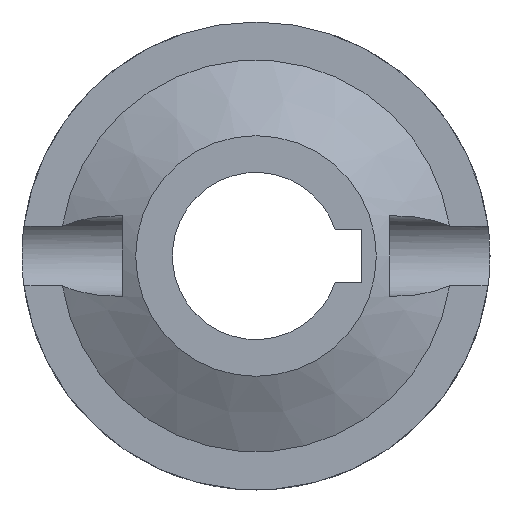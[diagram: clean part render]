
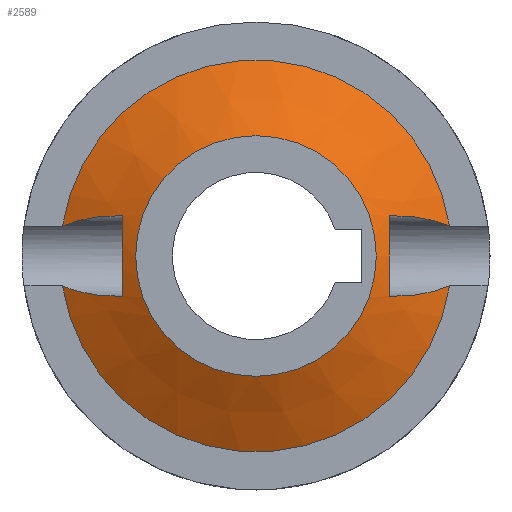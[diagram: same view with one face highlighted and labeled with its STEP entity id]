
A CAD part, front view. The second image highlights one B-rep face of the part: STEP entity #2589.
In plain terms, the highlighted conical face has half-angle 62.033 degrees and reference radius 18 mm.
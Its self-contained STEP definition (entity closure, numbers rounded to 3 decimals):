
#26=CONICAL_SURFACE('',#2881,18.,1.083);
#258=LINE('',#6282,#412);
#412=VECTOR('',#3568,18.);
#550=CIRCLE('',#2856,711.177);
#551=CIRCLE('',#2858,21.758);
#552=CIRCLE('',#2860,716.001);
#558=CIRCLE('',#2873,21.758);
#559=CIRCLE('',#2875,711.174);
#560=CIRCLE('',#2877,716.004);
#561=CIRCLE('',#2882,29.3);
#562=CIRCLE('',#2883,29.3);
#563=CIRCLE('',#2884,18.);
#762=FACE_OUTER_BOUND('',#920,.T.);
#920=EDGE_LOOP('',(#2173,#2174,#2175,#2176,#2177,#2178,#2179,#2180,#2181,
#2182,#2183,#2184,#2185,#2186,#2187,#2188,#2189,#2190));
#980=B_SPLINE_CURVE_WITH_KNOTS('',3,(#6138,#6139,#6140,#6141,#6142,#6143),
 .UNSPECIFIED.,.F.,.F.,(4,2,4),(-3.033,-2.793,-2.164),
 .UNSPECIFIED.);
#982=B_SPLINE_CURVE_WITH_KNOTS('',3,(#6163,#6164,#6165,#6166,#6167,#6168),
 .UNSPECIFIED.,.F.,.F.,(4,2,4),(-5.192,-4.563,-4.323),
 .UNSPECIFIED.);
#984=B_SPLINE_CURVE_WITH_KNOTS('',3,(#6228,#6229,#6230,#6231,#6232,#6233),
 .UNSPECIFIED.,.F.,.F.,(4,2,4),(-5.192,-4.563,-4.323),
 .UNSPECIFIED.);
#985=B_SPLINE_CURVE_WITH_KNOTS('',3,(#6234,#6235,#6236,#6237,#6238,#6239),
 .UNSPECIFIED.,.F.,.F.,(4,2,4),(-3.033,-2.793,-2.164),
 .UNSPECIFIED.);
#997=(
BOUNDED_CURVE()
B_SPLINE_CURVE(2,(#6110,#6111,#6112),.UNSPECIFIED.,.F.,.F.)
B_SPLINE_CURVE_WITH_KNOTS((3,3),(-2.973,-2.136),
 .UNSPECIFIED.)
CURVE()
GEOMETRIC_REPRESENTATION_ITEM()
RATIONAL_B_SPLINE_CURVE((1.374,1.374,1.344))
REPRESENTATION_ITEM('')
);
#998=(
BOUNDED_CURVE()
B_SPLINE_CURVE(2,(#6114,#6115,#6116),.UNSPECIFIED.,.F.,.F.)
B_SPLINE_CURVE_WITH_KNOTS((3,3),(-3.813,-2.973),
 .UNSPECIFIED.)
CURVE()
GEOMETRIC_REPRESENTATION_ITEM()
RATIONAL_B_SPLINE_CURVE((1.344,1.374,1.374))
REPRESENTATION_ITEM('')
);
#999=(
BOUNDED_CURVE()
B_SPLINE_CURVE(2,(#6185,#6186,#6187),.UNSPECIFIED.,.F.,.F.)
B_SPLINE_CURVE_WITH_KNOTS((3,3),(2.133,3.81),
 .UNSPECIFIED.)
CURVE()
GEOMETRIC_REPRESENTATION_ITEM()
RATIONAL_B_SPLINE_CURVE((1.344,1.403,1.344))
REPRESENTATION_ITEM('')
);
#1180=VERTEX_POINT('',#6108);
#1181=VERTEX_POINT('',#6109);
#1182=VERTEX_POINT('',#6113);
#1186=VERTEX_POINT('',#6125);
#1187=VERTEX_POINT('',#6129);
#1188=VERTEX_POINT('',#6133);
#1189=VERTEX_POINT('',#6137);
#1192=VERTEX_POINT('',#6161);
#1195=VERTEX_POINT('',#6183);
#1196=VERTEX_POINT('',#6184);
#1200=VERTEX_POINT('',#6196);
#1201=VERTEX_POINT('',#6198);
#1202=VERTEX_POINT('',#6204);
#1203=VERTEX_POINT('',#6208);
#1206=VERTEX_POINT('',#6226);
#1208=VERTEX_POINT('',#6281);
#1505=EDGE_CURVE('',#1180,#1181,#997,.F.);
#1506=EDGE_CURVE('',#1181,#1182,#998,.F.);
#1512=EDGE_CURVE('',#1186,#1182,#550,.T.);
#1514=EDGE_CURVE('',#1187,#1186,#551,.F.);
#1516=EDGE_CURVE('',#1180,#1188,#552,.T.);
#1517=EDGE_CURVE('',#1189,#1187,#980,.T.);
#1521=EDGE_CURVE('',#1188,#1192,#982,.T.);
#1529=EDGE_CURVE('',#1195,#1196,#999,.T.);
#1536=EDGE_CURVE('',#1200,#1201,#558,.F.);
#1537=EDGE_CURVE('',#1195,#1200,#559,.T.);
#1539=EDGE_CURVE('',#1202,#1196,#560,.T.);
#1543=EDGE_CURVE('',#1201,#1206,#984,.T.);
#1544=EDGE_CURVE('',#1203,#1202,#985,.T.);
#1547=EDGE_CURVE('',#1192,#1203,#561,.T.);
#1548=EDGE_CURVE('',#1206,#1189,#562,.T.);
#1549=EDGE_CURVE('',#1181,#1208,#258,.T.);
#1550=EDGE_CURVE('',#1208,#1208,#563,.T.);
#2173=ORIENTED_EDGE('',*,*,#1516,.T.);
#2174=ORIENTED_EDGE('',*,*,#1521,.T.);
#2175=ORIENTED_EDGE('',*,*,#1547,.T.);
#2176=ORIENTED_EDGE('',*,*,#1544,.T.);
#2177=ORIENTED_EDGE('',*,*,#1539,.T.);
#2178=ORIENTED_EDGE('',*,*,#1529,.F.);
#2179=ORIENTED_EDGE('',*,*,#1537,.T.);
#2180=ORIENTED_EDGE('',*,*,#1536,.T.);
#2181=ORIENTED_EDGE('',*,*,#1543,.T.);
#2182=ORIENTED_EDGE('',*,*,#1548,.T.);
#2183=ORIENTED_EDGE('',*,*,#1517,.T.);
#2184=ORIENTED_EDGE('',*,*,#1514,.T.);
#2185=ORIENTED_EDGE('',*,*,#1512,.T.);
#2186=ORIENTED_EDGE('',*,*,#1506,.F.);
#2187=ORIENTED_EDGE('',*,*,#1549,.T.);
#2188=ORIENTED_EDGE('',*,*,#1550,.F.);
#2189=ORIENTED_EDGE('',*,*,#1549,.F.);
#2190=ORIENTED_EDGE('',*,*,#1505,.F.);
#2589=ADVANCED_FACE('',(#762),#26,.T.);
#2856=AXIS2_PLACEMENT_3D('',#6127,#3496,#3497);
#2858=AXIS2_PLACEMENT_3D('',#6131,#3501,#3502);
#2860=AXIS2_PLACEMENT_3D('',#6135,#3506,#3507);
#2873=AXIS2_PLACEMENT_3D('',#6200,#3542,#3543);
#2875=AXIS2_PLACEMENT_3D('',#6202,#3546,#3547);
#2877=AXIS2_PLACEMENT_3D('',#6206,#3551,#3552);
#2881=AXIS2_PLACEMENT_3D('',#6278,#3562,#3563);
#2882=AXIS2_PLACEMENT_3D('',#6279,#3564,#3565);
#2883=AXIS2_PLACEMENT_3D('',#6280,#3566,#3567);
#2884=AXIS2_PLACEMENT_3D('',#6283,#3569,#3570);
#3496=DIRECTION('center_axis',(0.,0.,-1.));
#3497=DIRECTION('ref_axis',(0.453,-0.891,0.));
#3501=DIRECTION('center_axis',(0.,-1.,0.));
#3502=DIRECTION('ref_axis',(0.,0.,-1.));
#3506=DIRECTION('center_axis',(0.,0.,1.));
#3507=DIRECTION('ref_axis',(0.455,-0.891,0.));
#3542=DIRECTION('center_axis',(0.,-1.,0.));
#3543=DIRECTION('ref_axis',(0.,0.,-1.));
#3546=DIRECTION('center_axis',(0.,0.,-1.));
#3547=DIRECTION('ref_axis',(-0.455,-0.891,0.));
#3551=DIRECTION('center_axis',(0.,0.,1.));
#3552=DIRECTION('ref_axis',(-0.453,-0.891,0.));
#3562=DIRECTION('center_axis',(0.,1.,0.));
#3563=DIRECTION('ref_axis',(-1.,0.,0.));
#3564=DIRECTION('center_axis',(0.,-1.,0.));
#3565=DIRECTION('ref_axis',(1.,0.,0.));
#3566=DIRECTION('center_axis',(0.,-1.,0.));
#3567=DIRECTION('ref_axis',(1.,0.,0.));
#3568=DIRECTION('',(-0.883,-0.469,0.));
#3569=DIRECTION('center_axis',(0.,-1.,0.));
#3570=DIRECTION('ref_axis',(1.,0.,0.));
#6108=CARTESIAN_POINT('',(20.,-4.47,6.));
#6109=CARTESIAN_POINT('',(20.,-4.938,0.));
#6110=CARTESIAN_POINT('Ctrl Pts',(20.,-4.938,0.));
#6111=CARTESIAN_POINT('Ctrl Pts',(20.,-4.938,2.935));
#6112=CARTESIAN_POINT('Ctrl Pts',(20.,-4.47,6.));
#6113=CARTESIAN_POINT('',(20.,-4.467,-6.021));
#6114=CARTESIAN_POINT('Ctrl Pts',(20.,-4.467,-6.021));
#6115=CARTESIAN_POINT('Ctrl Pts',(20.,-4.938,-2.945));
#6116=CARTESIAN_POINT('Ctrl Pts',(20.,-4.938,0.));
#6125=CARTESIAN_POINT('',(20.909,-4.004,-6.021));
#6127=CARTESIAN_POINT('Origin',(-302.327,629.471,-6.021));
#6129=CARTESIAN_POINT('',(20.915,-4.004,-6.));
#6131=CARTESIAN_POINT('Origin',(0.,-4.004,
0.));
#6133=CARTESIAN_POINT('',(20.915,-4.004,6.));
#6135=CARTESIAN_POINT('Origin',(-304.588,633.73,6.));
#6137=CARTESIAN_POINT('',(28.957,0.,-4.468));
#6138=CARTESIAN_POINT('Ctrl Pts',(28.957,0.,
-4.468));
#6139=CARTESIAN_POINT('Ctrl Pts',(28.233,-0.354,-4.786));
#6140=CARTESIAN_POINT('Ctrl Pts',(27.49,-0.719,-5.036));
#6141=CARTESIAN_POINT('Ctrl Pts',(24.969,-1.962,-5.735));
#6142=CARTESIAN_POINT('Ctrl Pts',(22.934,-2.974,-6.));
#6143=CARTESIAN_POINT('Ctrl Pts',(20.915,-4.004,-6.));
#6161=CARTESIAN_POINT('',(28.957,0.,4.468));
#6163=CARTESIAN_POINT('Ctrl Pts',(20.915,-4.004,6.));
#6164=CARTESIAN_POINT('Ctrl Pts',(22.934,-2.974,6.));
#6165=CARTESIAN_POINT('Ctrl Pts',(24.969,-1.962,5.735));
#6166=CARTESIAN_POINT('Ctrl Pts',(27.49,-0.719,5.036));
#6167=CARTESIAN_POINT('Ctrl Pts',(28.233,-0.354,4.786));
#6168=CARTESIAN_POINT('Ctrl Pts',(28.957,0.,4.468));
#6183=CARTESIAN_POINT('',(-20.,-4.467,-6.021));
#6184=CARTESIAN_POINT('',(-20.,-4.47,6.));
#6185=CARTESIAN_POINT('Ctrl Pts',(-20.,-4.467,-6.021));
#6186=CARTESIAN_POINT('Ctrl Pts',(-20.,-5.387,-0.01));
#6187=CARTESIAN_POINT('Ctrl Pts',(-20.,-4.47,6.));
#6196=CARTESIAN_POINT('',(-20.909,-4.004,-6.021));
#6198=CARTESIAN_POINT('',(-20.915,-4.004,-6.));
#6200=CARTESIAN_POINT('Origin',(0.,-4.004,
0.));
#6202=CARTESIAN_POINT('Origin',(302.325,629.469,-6.021));
#6204=CARTESIAN_POINT('',(-20.915,-4.004,6.));
#6206=CARTESIAN_POINT('Origin',(304.59,633.733,6.));
#6208=CARTESIAN_POINT('',(-28.957,0.,4.468));
#6226=CARTESIAN_POINT('',(-28.957,0.,-4.468));
#6228=CARTESIAN_POINT('Ctrl Pts',(-20.915,-4.004,-6.));
#6229=CARTESIAN_POINT('Ctrl Pts',(-22.934,-2.974,-6.));
#6230=CARTESIAN_POINT('Ctrl Pts',(-24.969,-1.962,-5.735));
#6231=CARTESIAN_POINT('Ctrl Pts',(-27.49,-0.719,-5.036));
#6232=CARTESIAN_POINT('Ctrl Pts',(-28.233,-0.354,
-4.786));
#6233=CARTESIAN_POINT('Ctrl Pts',(-28.957,0.,
-4.468));
#6234=CARTESIAN_POINT('Ctrl Pts',(-28.957,0.,
4.468));
#6235=CARTESIAN_POINT('Ctrl Pts',(-28.233,-0.354,4.786));
#6236=CARTESIAN_POINT('Ctrl Pts',(-27.49,-0.719,
5.036));
#6237=CARTESIAN_POINT('Ctrl Pts',(-24.969,-1.962,5.735));
#6238=CARTESIAN_POINT('Ctrl Pts',(-22.934,-2.974,6.));
#6239=CARTESIAN_POINT('Ctrl Pts',(-20.915,-4.004,6.));
#6278=CARTESIAN_POINT('Origin',(0.,-6.,
0.));
#6279=CARTESIAN_POINT('Origin',(0.,0.,
0.));
#6280=CARTESIAN_POINT('Origin',(0.,0.,
0.));
#6281=CARTESIAN_POINT('',(18.,-6.,0.));
#6282=CARTESIAN_POINT('',(18.,-6.,0.));
#6283=CARTESIAN_POINT('Origin',(0.,-6.,
0.));
